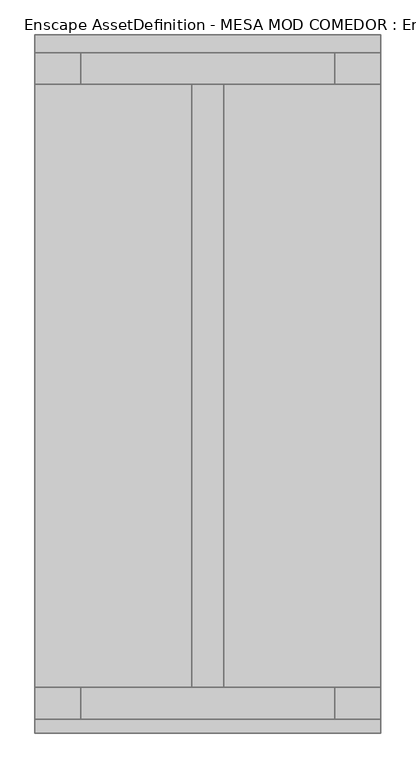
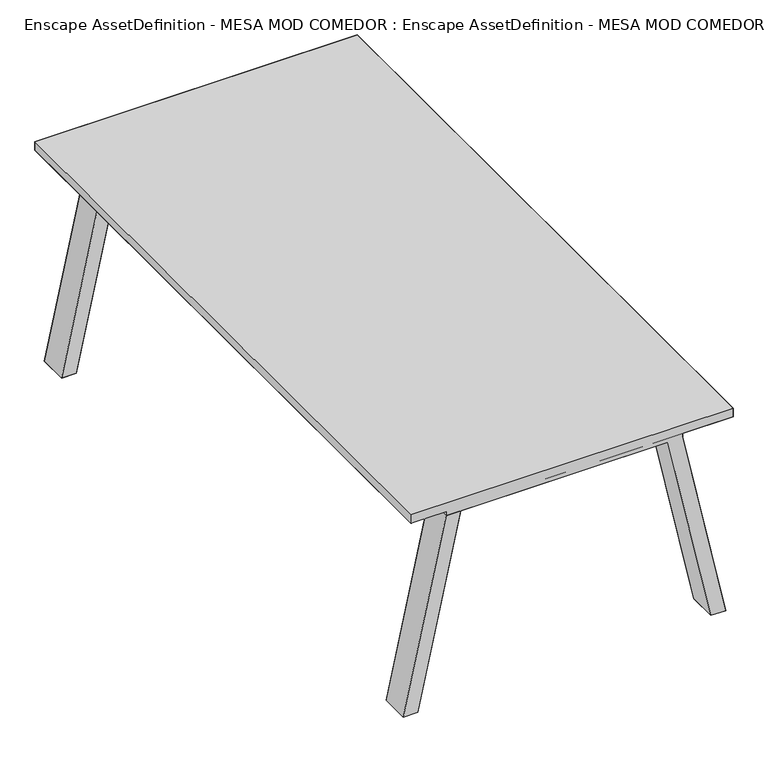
"""IFC4 building model written with IfcOpenShell, lengths in millimetres: furniture geometry, Enscape AssetDefinition - MESA MOD COMEDOR : Enscape AssetDefinition - MESA MOD COMEDOR."""

from ifc_helpers import new_model, si_unit, origin, place, context, project, spatial, triangles, source, transform, mapped, element, save


def enscape_assetdefinition_mesa_mod_comedor_enscape_ff12c231(model_context):
    return source(origin(), model_context, "Body", "Tessellation", [
        triangles([(945.0000217, 2099.9998707, 670.0000196), (144.9999975, 2000.0000153, 670.0000196), (495.0000183, 2000.0000153, 670.0000196), (495.0000183, 2000.0000153, 720.00002), (595.0000191, 100.0000008, 670.0000196), (595.0000191, 2000.0000153, 670.0000196), (945.0000217, 0.0, 720.00002), (945.0000217, 100.0000008, 720.00002), (144.9999975, 100.0000008, 720.00002), (144.9999975, 0.0, 720.00002), (595.0000191, 2000.0000153, 720.00002), (945.0000217, 2000.0000153, 720.00002), (144.9999975, 2099.9998707, 720.00002), (144.9999975, 2000.0000153, 720.00002), (945.0000217, 2099.9998707, 720.00002), (595.0000191, 100.0000008, 720.00002), (495.0000183, 100.0000008, 670.0000196), (495.0000183, 100.0000008, 720.00002), (144.9999975, 0.0, 670.0000196), (50.0000004, 100.0000008, 0.0), (0.0, 0.0, 0.0), (50.0000004, 0.0, 0.0), (144.9999975, 100.0000008, 670.0000196), (194.9999979, 0.0, 670.0000196), (194.9999979, 100.0000008, 670.0000196), (0.0, 100.0000008, 0.0), (1039.9999643, 0.0, 0.0), (1039.9999643, 100.0000008, 0.0), (945.0000217, 100.0000008, 670.0000196), (945.0000217, 0.0, 670.0000196), (1090.0000374, 100.0000008, 0.0), (1090.0000374, 0.0, 0.0), (894.9999487, 100.0000008, 670.0000196), (894.9999487, 0.0, 670.0000196), (0.0, 2000.0000153, 0.0), (50.0000004, 2099.9998707, 0.0), (50.0000004, 2000.0000153, 0.0), (144.9999975, 2099.9998707, 670.0000196), (0.0, 2099.9998707, 0.0), (194.9999979, 2000.0000153, 670.0000196), (194.9999979, 2099.9998707, 670.0000196), (1039.9999643, 2000.0000153, 0.0), (894.9999487, 2099.9998707, 670.0000196), (1090.0000374, 2099.9998707, 0.0), (1039.9999643, 2099.9998707, 0.0), (894.9999487, 2000.0000153, 670.0000196), (945.0000217, 2000.0000153, 670.0000196), (1090.0000374, 2000.0000153, 0.0), (0.0, -43.9999987, 750.0000057), (1090.0000374, 2155.9999409, 720.00002), (0.0, -43.9999987, 720.00002), (0.0, 2155.9999409, 720.00002), (0.0, 2155.9999409, 750.0000057), (1090.0000374, 2155.9999409, 750.0000057), (1090.0000374, -43.9999987, 720.00002), (1090.0000374, -43.9999987, 750.0000057)], [[51, 56, 49], [51, 55, 56], [55, 54, 56], [55, 50, 54], [50, 53, 54], [50, 52, 53], [51, 50, 55], [51, 52, 50], [52, 49, 53], [52, 51, 49], [53, 56, 54], [53, 49, 56], [47, 42, 48], [47, 46, 42], [43, 42, 46], [43, 45, 42], [1, 46, 47], [1, 43, 46], [43, 44, 45], [43, 1, 44], [44, 47, 48], [44, 1, 47], [44, 42, 45], [44, 48, 42], [38, 36, 39], [38, 41, 36], [40, 36, 41], [40, 37, 36], [2, 41, 38], [2, 40, 41], [40, 35, 37], [40, 2, 35], [35, 38, 39], [35, 2, 38], [35, 36, 37], [35, 39, 36], [30, 27, 32], [30, 34, 27], [33, 27, 34], [33, 28, 27], [29, 34, 30], [29, 33, 34], [33, 31, 28], [33, 29, 31], [31, 30, 32], [31, 29, 30], [31, 27, 28], [31, 32, 27], [23, 20, 26], [23, 25, 20], [24, 20, 25], [24, 22, 20], [19, 25, 23], [19, 24, 25], [24, 21, 22], [24, 19, 21], [21, 23, 26], [21, 19, 23], [21, 20, 22], [21, 26, 20], [19, 7, 10], [19, 30, 7], [23, 10, 9], [23, 19, 10], [17, 9, 18], [17, 23, 9], [18, 5, 17], [18, 16, 5], [47, 1, 15], [47, 15, 12], [12, 13, 14], [12, 15, 13], [18, 11, 16], [18, 4, 11], [9, 10, 7], [7, 18, 9], [7, 16, 18], [7, 8, 16], [30, 8, 7], [19, 23, 17], [17, 30, 19], [30, 29, 8], [17, 29, 30], [29, 16, 8], [29, 5, 16], [6, 12, 11], [6, 47, 12], [6, 16, 11], [6, 5, 16], [3, 11, 4], [3, 6, 11], [17, 4, 18], [2, 4, 14], [3, 5, 17], [17, 3, 4], [2, 3, 4], [3, 6, 5], [1, 13, 15], [2, 1, 47], [38, 14, 13], [38, 2, 14], [1, 38, 13], [2, 38, 1]], closed=False),
    ])


if __name__ == "__main__":
    model = new_model("IFC4")
    model_context = context("Model", 3, world=origin())
    ifc_project = project(units=[si_unit("LENGTHUNIT", "METRE", prefix="MILLI")], contexts=[model_context])
    site = spatial("IfcSite", under=ifc_project)
    building = spatial("IfcBuilding", under=site)
    placement = place(None, origin())
    enscape_assetdefinition_mesa_mod_comedor_enscape_shape = enscape_assetdefinition_mesa_mod_comedor_enscape_ff12c231(model_context)
    element("IfcFurniture", 1, ObjectType="Enscape AssetDefinition - MESA MOD COMEDOR : Enscape AssetDefinition - MESA MOD COMEDOR", at=placement, inside=building, context=model_context, shape_type="MappedRepresentation", body=[
        mapped(enscape_assetdefinition_mesa_mod_comedor_enscape_shape, transform((0.0, 0.0, 0.0), x_axis=(1.0, 0.0, 0.0), y_axis=(0.0, 1.0, 0.0), z_axis=(0.0, 0.0, 1.0))),
    ])
    save(model, "model.ifc")
